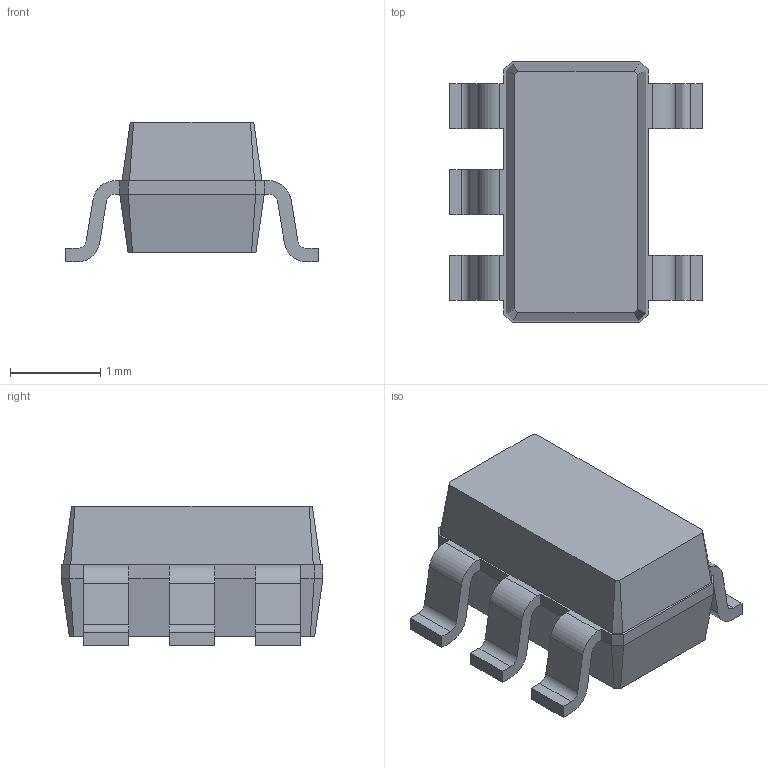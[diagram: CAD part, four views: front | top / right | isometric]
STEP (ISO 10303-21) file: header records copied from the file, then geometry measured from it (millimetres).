
FILE_DESCRIPTION(/* description */ ('STEP AP242 Edition 2','CAx-IF Rec.Pracs.---Representation and Presentation of Product Manufacturing Information (PMI)---4.0---2014-10-13','CAx-IF Rec.Pracs.---3D Tessellated Geometry---0.4---2014-09-14','2;1','CAx-IF Rec.Pracs.---User Defined Attributes---1.5---2016-08-15'),/* implementation_level */ '2;1');
FILE_NAME(/* name */ 'v2_assembly - SOT-23-5',/* time_stamp */ '2026-05-19T16:26:07Z',/* author */ (''),/* organization */ (''),/* preprocessor_version */ 'ST-DEVELOPER v20',/* originating_system */ 'ONSHAPE BY PTC INC, 1.215',/* authorisation */ ' ');
FILE_SCHEMA (('AP242_MANAGED_MODEL_BASED_3D_ENGINEERING_MIM_LF { 1 0 10303 442 3 1 4 }'));
Length unit declared in the file: metre
Products named in the file (1): SOT-23-5
Bounding box: 2.8 x 2.9 x 1.55 mm (x, y, z)
Volume: 6.5 mm3; surface area: 27.4 mm2
Topology: 1 solids, 1 shells, 92 faces, 249 edges, 160 vertices
Faces by surface type: plane 72, cylinder 20
Entity records: 3082 total; most frequent: CARTESIAN_POINT 502, ORIENTED_EDGE 498, DIRECTION 475, EDGE_CURVE 249, LINE 209, VECTOR 209, VERTEX_POINT 160, AXIS2_PLACEMENT_3D 133
